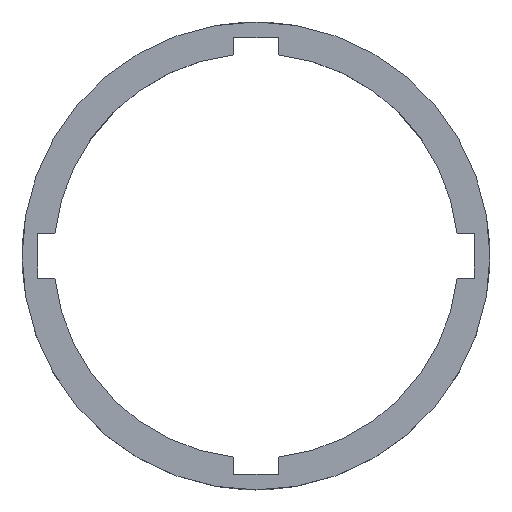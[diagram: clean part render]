
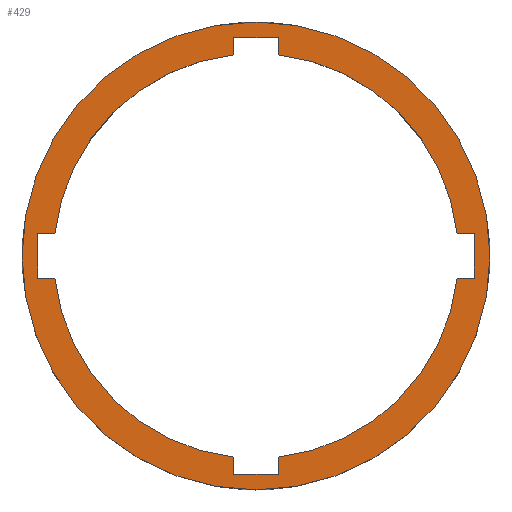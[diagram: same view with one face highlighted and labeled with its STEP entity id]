
A CAD part, top view. The second image highlights one B-rep face of the part: STEP entity #429.
In plain terms, the highlighted planar face has unit normal (0, 0, 1).
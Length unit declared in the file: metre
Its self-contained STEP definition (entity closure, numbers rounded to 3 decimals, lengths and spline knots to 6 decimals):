
#17=PLANE('',#473);
#30=CIRCLE('',#462,0.032);
#33=CIRCLE('',#466,0.032);
#34=CIRCLE('',#468,0.032);
#38=CIRCLE('',#474,0.037);
#39=CIRCLE('',#475,0.032);
#73=ORIENTED_EDGE('',*,*,#186,.T.);
#74=ORIENTED_EDGE('',*,*,#187,.T.);
#75=ORIENTED_EDGE('',*,*,#188,.T.);
#76=ORIENTED_EDGE('',*,*,#161,.F.);
#77=ORIENTED_EDGE('',*,*,#189,.T.);
#78=ORIENTED_EDGE('',*,*,#190,.T.);
#79=ORIENTED_EDGE('',*,*,#191,.F.);
#80=ORIENTED_EDGE('',*,*,#169,.F.);
#81=ORIENTED_EDGE('',*,*,#192,.T.);
#82=ORIENTED_EDGE('',*,*,#193,.F.);
#83=ORIENTED_EDGE('',*,*,#194,.F.);
#84=ORIENTED_EDGE('',*,*,#195,.F.);
#85=ORIENTED_EDGE('',*,*,#196,.F.);
#86=ORIENTED_EDGE('',*,*,#197,.F.);
#87=ORIENTED_EDGE('',*,*,#198,.T.);
#88=ORIENTED_EDGE('',*,*,#166,.F.);
#89=ORIENTED_EDGE('',*,*,#199,.F.);
#161=EDGE_CURVE('',#218,#220,#30,.T.);
#166=EDGE_CURVE('',#224,#225,#33,.T.);
#169=EDGE_CURVE('',#226,#228,#34,.T.);
#186=EDGE_CURVE('',#241,#241,#38,.T.);
#187=EDGE_CURVE('',#242,#243,#278,.T.);
#188=EDGE_CURVE('',#243,#220,#279,.T.);
#189=EDGE_CURVE('',#218,#244,#280,.T.);
#190=EDGE_CURVE('',#244,#245,#281,.T.);
#191=EDGE_CURVE('',#228,#245,#282,.T.);
#192=EDGE_CURVE('',#226,#246,#283,.T.);
#193=EDGE_CURVE('',#247,#246,#284,.T.);
#194=EDGE_CURVE('',#248,#247,#285,.T.);
#195=EDGE_CURVE('',#249,#248,#39,.T.);
#196=EDGE_CURVE('',#250,#249,#286,.T.);
#197=EDGE_CURVE('',#251,#250,#287,.T.);
#198=EDGE_CURVE('',#251,#225,#288,.T.);
#199=EDGE_CURVE('',#242,#224,#289,.T.);
#218=VERTEX_POINT('',#617);
#220=VERTEX_POINT('',#620);
#224=VERTEX_POINT('',#629);
#225=VERTEX_POINT('',#631);
#226=VERTEX_POINT('',#635);
#228=VERTEX_POINT('',#638);
#241=VERTEX_POINT('',#670);
#242=VERTEX_POINT('',#672);
#243=VERTEX_POINT('',#673);
#244=VERTEX_POINT('',#676);
#245=VERTEX_POINT('',#678);
#246=VERTEX_POINT('',#681);
#247=VERTEX_POINT('',#683);
#248=VERTEX_POINT('',#685);
#249=VERTEX_POINT('',#687);
#250=VERTEX_POINT('',#689);
#251=VERTEX_POINT('',#691);
#278=LINE('',#671,#318);
#279=LINE('',#674,#319);
#280=LINE('',#675,#320);
#281=LINE('',#677,#321);
#282=LINE('',#679,#322);
#283=LINE('',#680,#323);
#284=LINE('',#682,#324);
#285=LINE('',#684,#325);
#286=LINE('',#688,#326);
#287=LINE('',#690,#327);
#288=LINE('',#692,#328);
#289=LINE('',#693,#329);
#318=VECTOR('',#546,1.);
#319=VECTOR('',#547,1.);
#320=VECTOR('',#548,1.);
#321=VECTOR('',#549,1.);
#322=VECTOR('',#550,1.);
#323=VECTOR('',#551,1.);
#324=VECTOR('',#552,1.);
#325=VECTOR('',#553,1.);
#326=VECTOR('',#556,1.);
#327=VECTOR('',#557,1.);
#328=VECTOR('',#558,1.);
#329=VECTOR('',#559,1.);
#345=EDGE_LOOP('',(#73));
#346=EDGE_LOOP('',(#74,#75,#76,#77,#78,#79,#80,#81,#82,#83,#84,#85,#86,
#87,#88,#89));
#383=FACE_BOUND('',#345,.T.);
#384=FACE_BOUND('',#346,.T.);
#429=ADVANCED_FACE('',(#383,#384),#17,.T.);
#462=AXIS2_PLACEMENT_3D('',#619,#503,#504);
#466=AXIS2_PLACEMENT_3D('',#630,#513,#514);
#468=AXIS2_PLACEMENT_3D('',#637,#519,#520);
#473=AXIS2_PLACEMENT_3D('',#668,#542,#543);
#474=AXIS2_PLACEMENT_3D('',#669,#544,#545);
#475=AXIS2_PLACEMENT_3D('',#686,#554,#555);
#503=DIRECTION('',(0.,0.,1.));
#504=DIRECTION('',(1.,0.,0.));
#513=DIRECTION('',(0.,0.,1.));
#514=DIRECTION('',(1.,0.,0.));
#519=DIRECTION('',(0.,0.,1.));
#520=DIRECTION('',(1.,0.,0.));
#542=DIRECTION('',(0.,0.,1.));
#543=DIRECTION('',(1.,0.,0.));
#544=DIRECTION('',(0.,0.,1.));
#545=DIRECTION('',(1.,0.,0.));
#546=DIRECTION('',(1.,0.,0.));
#547=DIRECTION('',(0.,-1.,0.));
#548=DIRECTION('',(1.,0.,0.));
#549=DIRECTION('',(0.,-1.,0.));
#550=DIRECTION('',(1.,0.,0.));
#551=DIRECTION('',(0.,-1.,0.));
#552=DIRECTION('',(1.,0.,0.));
#553=DIRECTION('',(0.,-1.,0.));
#554=DIRECTION('',(0.,0.,1.));
#555=DIRECTION('',(1.,0.,0.));
#556=DIRECTION('',(1.,0.,0.));
#557=DIRECTION('',(0.,-1.,0.));
#558=DIRECTION('',(1.,0.,0.));
#559=DIRECTION('',(0.,-1.,0.));
#617=CARTESIAN_POINT('',(0.031808,0.0035,0.036));
#619=CARTESIAN_POINT('',(0.,0.,0.036));
#620=CARTESIAN_POINT('',(0.0035,0.031808,0.036));
#629=CARTESIAN_POINT('',(-0.0035,0.031808,0.036));
#630=CARTESIAN_POINT('',(0.,0.,0.036));
#631=CARTESIAN_POINT('',(-0.031808,0.0035,0.036));
#635=CARTESIAN_POINT('',(0.0035,-0.031808,0.036));
#637=CARTESIAN_POINT('',(0.,0.,0.036));
#638=CARTESIAN_POINT('',(0.031808,-0.0035,0.036));
#668=CARTESIAN_POINT('',(0.,0.,0.036));
#669=CARTESIAN_POINT('',(0.,0.,0.036));
#670=CARTESIAN_POINT('',(0.037,0.,0.036));
#671=CARTESIAN_POINT('',(0.,0.0345,0.036));
#672=CARTESIAN_POINT('',(-0.0035,0.0345,0.036));
#673=CARTESIAN_POINT('',(0.0035,0.0345,0.036));
#674=CARTESIAN_POINT('',(0.0035,0.019,0.036));
#675=CARTESIAN_POINT('',(0.019,0.0035,0.036));
#676=CARTESIAN_POINT('',(0.0345,0.0035,0.036));
#677=CARTESIAN_POINT('',(0.0345,0.,0.036));
#678=CARTESIAN_POINT('',(0.0345,-0.0035,0.036));
#679=CARTESIAN_POINT('',(0.019,-0.0035,0.036));
#680=CARTESIAN_POINT('',(0.0035,-0.019,0.036));
#681=CARTESIAN_POINT('',(0.0035,-0.0345,0.036));
#682=CARTESIAN_POINT('',(0.,-0.0345,0.036));
#683=CARTESIAN_POINT('',(-0.0035,-0.0345,0.036));
#684=CARTESIAN_POINT('',(-0.0035,-0.019,0.036));
#685=CARTESIAN_POINT('',(-0.0035,-0.031808,0.036));
#686=CARTESIAN_POINT('',(0.,0.,0.036));
#687=CARTESIAN_POINT('',(-0.031808,-0.0035,0.036));
#688=CARTESIAN_POINT('',(-0.019,-0.0035,0.036));
#689=CARTESIAN_POINT('',(-0.0345,-0.0035,0.036));
#690=CARTESIAN_POINT('',(-0.0345,0.,0.036));
#691=CARTESIAN_POINT('',(-0.0345,0.0035,0.036));
#692=CARTESIAN_POINT('',(-0.019,0.0035,0.036));
#693=CARTESIAN_POINT('',(-0.0035,0.019,0.036));
